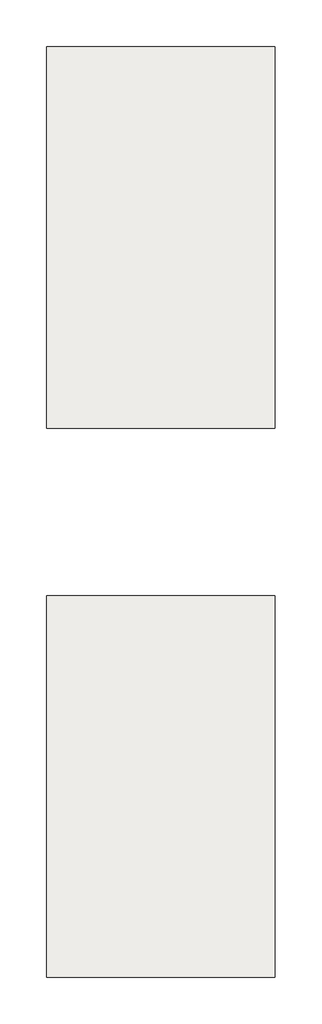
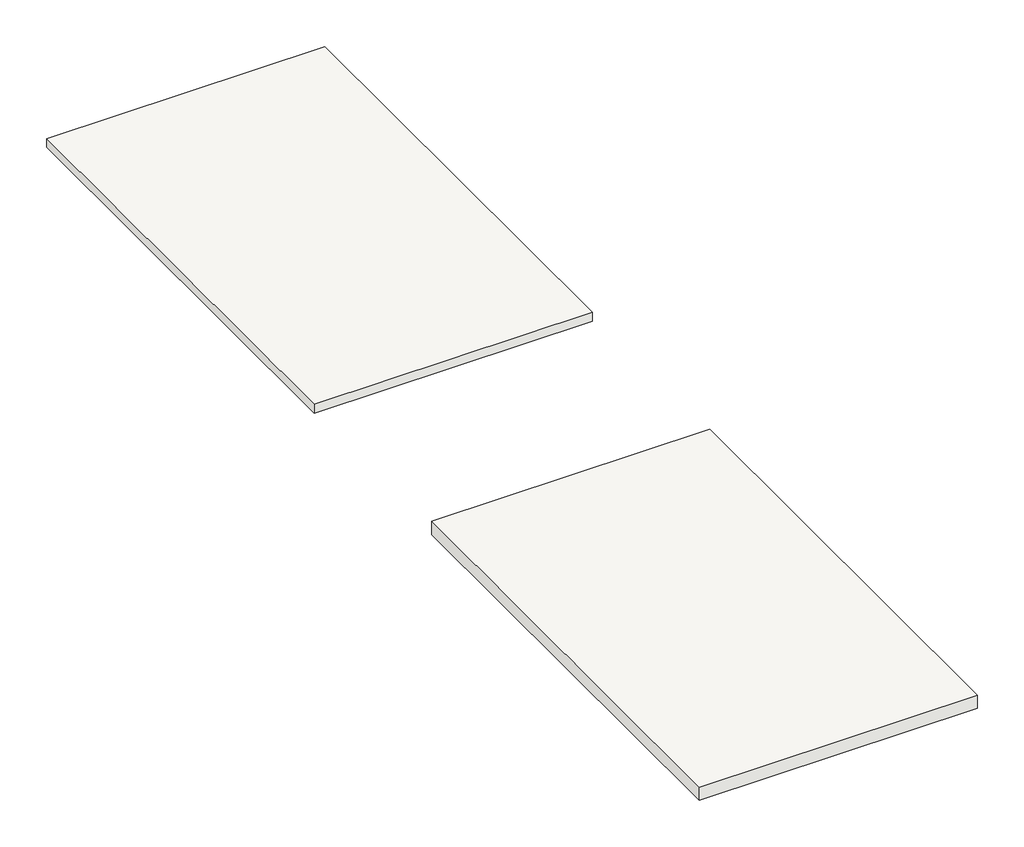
# One storey: 2 slabs.
"""IFC4 building model written with IfcOpenShell, lengths in millimetres."""

from ifc_helpers import new_model, si_unit, frame, origin, place, context, project, spatial, polyline, outline, extrude, element, save

model = new_model("IFC4")

# Units and contexts
model_context = context("Model", 3, world=origin())
ifc_project = project(units=[si_unit("LENGTHUNIT", "METRE", prefix="MILLI")], contexts=[model_context])

# Site, building, storey
site = spatial("IfcSite", under=ifc_project)
building = spatial("IfcBuilding", under=site)
storey = spatial("IfcBuildingStorey", under=building, Name="Референтни ниво", Elevation=0.0)

# Slabs
placement = place(None, origin())
element("IfcSlab", 1, ObjectType="Knauf Insulation - NaturBoard POD STANDARD - 20 mm - 20 x 1000 x 600 mm", at=placement, inside=storey, context=model_context, shape_type="SweptSolid", body=[
    extrude(outline(polyline([(-246426.4890323, 183315.8878718), (-246426.4890323, 182315.8878718), (-247026.4890323, 182315.8878718), (-247026.4890323, 183315.8878718), (-246426.4890323, 183315.8878718)])), frame((0.0, 0.0, -20.0), z_axis=(0.0, 0.0, 1.0), x_axis=(1.0, 0.0, 0.0)), (0.0, 0.0, 1.0), 20.0),
])
element("IfcSlab", 2, ObjectType="Knauf Insulation - NaturBoard POD STANDARD - 30 mm - 30 x 1000 x 600 mm", at=placement, inside=storey, context=model_context, shape_type="SweptSolid", body=[
    extrude(outline(polyline([(-246426.4890323, 181875.8878718), (-246426.4890323, 180875.8878718), (-247026.4890323, 180875.8878718), (-247026.4890323, 181875.8878718), (-246426.4890323, 181875.8878718)])), frame((0.0, 0.0, -30.0), z_axis=(0.0, 0.0, 1.0), x_axis=(1.0, 0.0, 0.0)), (0.0, 0.0, 1.0), 30.0),
])

save(model, "model.ifc")
